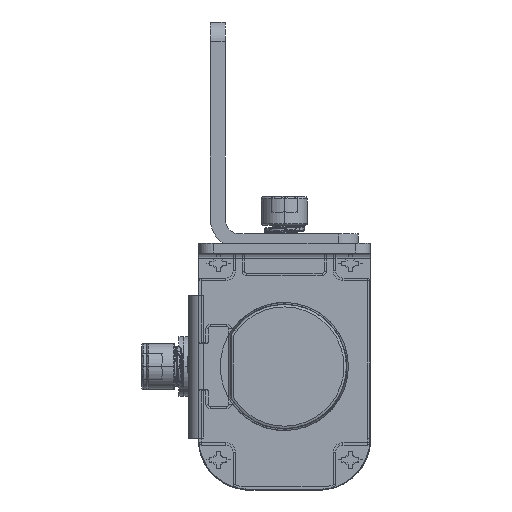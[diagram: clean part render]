
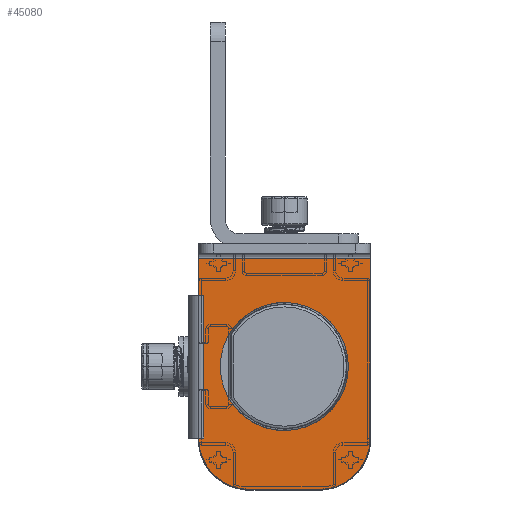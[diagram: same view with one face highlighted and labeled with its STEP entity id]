
A CAD part, front view. The second image highlights one B-rep face of the part: STEP entity #45080.
In plain terms, the highlighted planar face has unit normal (0, -1, 0) as drawn and (0, 0, -1) by its records, which use the part's own axes.
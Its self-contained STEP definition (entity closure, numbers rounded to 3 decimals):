
#44417=CARTESIAN_POINT('',(25.,0.,-2.));
#44418=DIRECTION('',(0.,0.,-1.));
#44419=DIRECTION('',(0.,-1.,0.));
#44420=AXIS2_PLACEMENT_3D('',#44417,#44418,#44419);
#44422=CARTESIAN_POINT('',(25.,0.,-2.));
#44423=DIRECTION('',(0.,0.,-1.));
#44424=DIRECTION('',(0.,1.,0.));
#44425=AXIS2_PLACEMENT_3D('',#44422,#44423,#44424);
#44427=DIRECTION('',(0.,1.,0.));
#44428=VECTOR('',#44427,1.);
#44429=CARTESIAN_POINT('',(10.5,16.4,-2.));
#44430=LINE('',#44429,#44428);
#44431=CARTESIAN_POINT('',(39.5,-6.9,-2.));
#44432=DIRECTION('',(0.,0.,-1.));
#44433=DIRECTION('',(1.,0.,0.));
#44434=AXIS2_PLACEMENT_3D('',#44431,#44432,#44433);
#44436=DIRECTION('',(0.,1.,0.));
#44437=VECTOR('',#44436,13.8);
#44438=CARTESIAN_POINT('',(50.,-6.9,-2.));
#44439=LINE('',#44438,#44437);
#44440=CARTESIAN_POINT('',(39.5,6.9,-2.));
#44441=DIRECTION('',(0.,0.,-1.));
#44442=DIRECTION('',(0.,1.,0.));
#44443=AXIS2_PLACEMENT_3D('',#44440,#44441,#44442);
#44445=DIRECTION('',(0.,1.,0.));
#44446=VECTOR('',#44445,1.);
#44447=CARTESIAN_POINT('',(39.5,16.4,-2.));
#44448=LINE('',#44447,#44446);
#44507=DIRECTION('',(-1.,0.,0.));
#44508=VECTOR('',#44507,29.);
#44509=CARTESIAN_POINT('',(39.5,16.4,-2.));
#44510=LINE('',#44509,#44508);
#44541=DIRECTION('',(-1.,0.,0.));
#44542=VECTOR('',#44541,36.5);
#44543=CARTESIAN_POINT('',(39.5,-17.4,-2.));
#44544=LINE('',#44543,#44542);
#44567=DIRECTION('',(0.,1.,0.));
#44568=VECTOR('',#44567,34.8);
#44569=CARTESIAN_POINT('',(3.,-17.4,-2.));
#44570=LINE('',#44569,#44568);
#44593=DIRECTION('',(-1.,0.,0.));
#44594=VECTOR('',#44593,7.5);
#44595=CARTESIAN_POINT('',(10.5,17.4,-2.));
#44596=LINE('',#44595,#44594);
#44909=CARTESIAN_POINT('',(3.,-17.4,-2.));
#44911=VERTEX_POINT('',#44909);
#44913=CARTESIAN_POINT('',(3.,17.4,-2.));
#44915=VERTEX_POINT('',#44913);
#44925=CARTESIAN_POINT('',(39.5,17.4,-2.));
#44926=CARTESIAN_POINT('',(50.,6.9,-2.));
#44927=VERTEX_POINT('',#44925);
#44928=VERTEX_POINT('',#44926);
#44929=CARTESIAN_POINT('',(50.,-6.9,-2.));
#44930=CARTESIAN_POINT('',(39.5,-17.4,-2.));
#44931=VERTEX_POINT('',#44929);
#44932=VERTEX_POINT('',#44930);
#44949=CARTESIAN_POINT('',(25.,-13.,-2.));
#44950=CARTESIAN_POINT('',(25.,13.,-2.));
#44951=VERTEX_POINT('',#44949);
#44952=VERTEX_POINT('',#44950);
#44997=CARTESIAN_POINT('',(10.5,16.4,-2.));
#44998=CARTESIAN_POINT('',(10.5,17.4,-2.));
#44999=VERTEX_POINT('',#44997);
#45000=VERTEX_POINT('',#44998);
#45009=CARTESIAN_POINT('',(39.5,16.4,-2.));
#45010=VERTEX_POINT('',#45009);
#45049=CARTESIAN_POINT('',(50.,-17.4,-2.));
#45050=DIRECTION('',(0.,0.,-1.));
#45051=DIRECTION('',(-1.,0.,0.));
#45052=AXIS2_PLACEMENT_3D('',#45049,#45050,#45051);
#45053=PLANE('',#45052);
#45055=ORIENTED_EDGE('',*,*,#45054,.T.);
#45057=ORIENTED_EDGE('',*,*,#45056,.T.);
#45059=ORIENTED_EDGE('',*,*,#45058,.F.);
#45061=ORIENTED_EDGE('',*,*,#45060,.F.);
#45063=ORIENTED_EDGE('',*,*,#45062,.F.);
#45065=ORIENTED_EDGE('',*,*,#45064,.T.);
#45067=ORIENTED_EDGE('',*,*,#45066,.F.);
#45069=ORIENTED_EDGE('',*,*,#45068,.F.);
#45071=ORIENTED_EDGE('',*,*,#45070,.T.);
#45072=EDGE_LOOP('',(#45055,#45057,#45059,#45061,#45063,#45065,#45067,#45069,
#45071));
#45073=FACE_OUTER_BOUND('',#45072,.F.);
#45075=ORIENTED_EDGE('',*,*,#45074,.T.);
#45077=ORIENTED_EDGE('',*,*,#45076,.T.);
#45078=EDGE_LOOP('',(#45075,#45077));
#45079=FACE_BOUND('',#45078,.F.);
#45080=ADVANCED_FACE('',(#45073,#45079),#45053,.T.);
#44421=CIRCLE('',#44420,13.);
#44426=CIRCLE('',#44425,13.);
#44435=CIRCLE('',#44434,10.5);
#44444=CIRCLE('',#44443,10.5);
#45054=EDGE_CURVE('',#44999,#45000,#44430,.T.);
#45056=EDGE_CURVE('',#45000,#44915,#44596,.T.);
#45058=EDGE_CURVE('',#44911,#44915,#44570,.T.);
#45060=EDGE_CURVE('',#44932,#44911,#44544,.T.);
#45062=EDGE_CURVE('',#44931,#44932,#44435,.T.);
#45064=EDGE_CURVE('',#44931,#44928,#44439,.T.);
#45066=EDGE_CURVE('',#44927,#44928,#44444,.T.);
#45068=EDGE_CURVE('',#45010,#44927,#44448,.T.);
#45070=EDGE_CURVE('',#45010,#44999,#44510,.T.);
#45074=EDGE_CURVE('',#44951,#44952,#44421,.T.);
#45076=EDGE_CURVE('',#44952,#44951,#44426,.T.);
